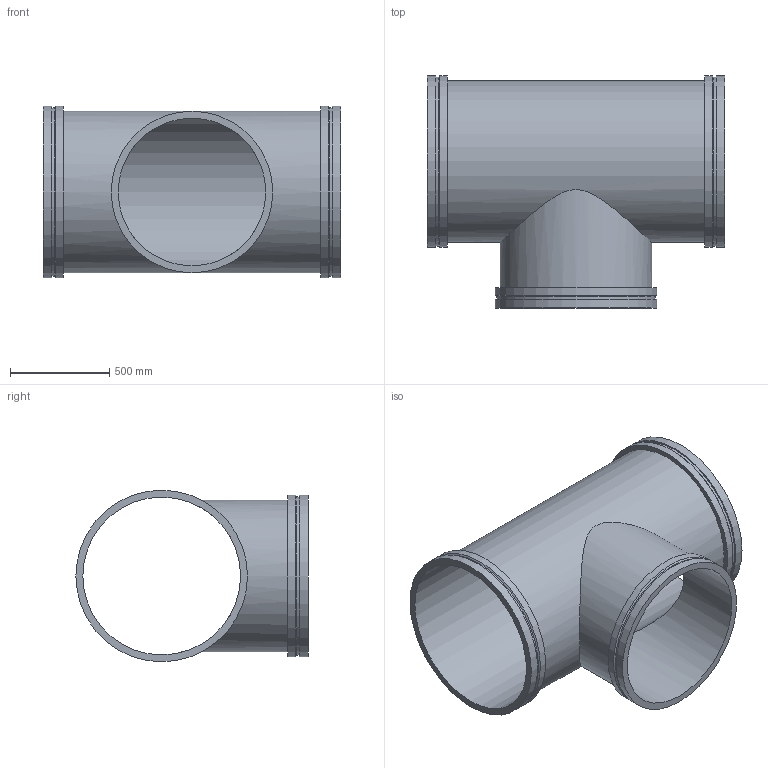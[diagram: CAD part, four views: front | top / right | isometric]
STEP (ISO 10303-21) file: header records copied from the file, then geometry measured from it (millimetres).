
FILE_DESCRIPTION(/* description */ ('VIC REDUCING TEE No W025 VR','CAx-IF Rec.Pracs.---Representation and Presentation of Product Manufacturing Information (PMI)---4.0---2014-10-13'),/* implementation_level */ '2;1');
FILE_NAME(/* name */ 'C:\Users\kkamble\AppData\Roaming\Autodesk\ApplicationPlugins\Back Up\Victaulic_Vic-Ring_Tee Reducing_No W25 VR (AGR)\Victaulic_Vic-Ring_Tee Reducing_No W25 VR (AGR)_32.0x30.0 (800x750).stp',/* time_stamp */ '2020-09-10T11:54:53+05:00',/* author */ ('mchristi'),/* organization */ ('Victaulic'),/* preprocessor_version */ 'ST-DEVELOPER v17.2',/* originating_system */ 'Autodesk Inventor 2019',/* authorisation */ '');
FILE_SCHEMA (('AP242_MANAGED_MODEL_BASED_3D_ENGINEERING_MIM_LF { 1 0 10303 442 1 1 4 }'));
Length unit declared in the file: inch
Products named in the file (1): W25 VR-32.0x30.0
Bounding box: 1498.6 x 1168.4 x 863.6 mm (x, y, z)
Volume: 60218794.8 mm3; surface area: 9226936.9 mm2
Topology: 1 solids, 1 shells, 25 faces, 68 edges, 52 vertices
Faces by surface type: cylinder 13, plane 9, cone 3
Full cylindrical faces by diameter (mm): 742.95 x1, 762 x1, 793.75 x1, 798.322 x1, 812.8 x3, 849.122 x2, 863.6 x4
Entity records: 1291 total; most frequent: CARTESIAN_POINT 447, DIRECTION 190, ORIENTED_EDGE 136, AXIS2_PLACEMENT_3D 87, EDGE_CURVE 68, VERTEX_POINT 52, CIRCLE 48, EDGE_LOOP 36
